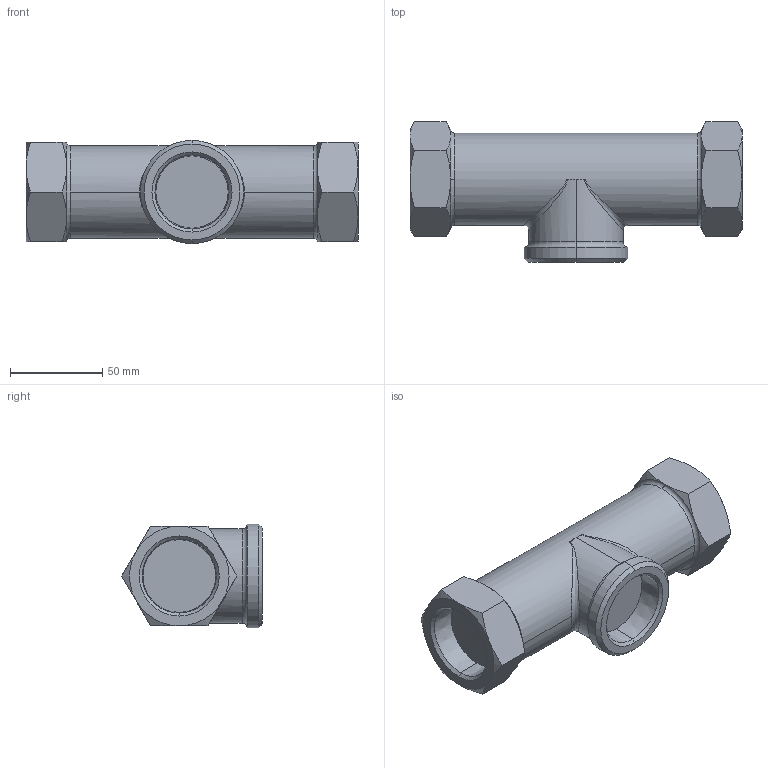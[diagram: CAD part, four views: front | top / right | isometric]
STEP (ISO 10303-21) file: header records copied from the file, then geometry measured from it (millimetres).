
FILE_DESCRIPTION (( 'STEP AP203' ), '1' );
FILE_NAME ('MS-1 32A.STEP', '2026-01-23T01:28:16', ( '' ), ( '' ), 'SwSTEP 2.0', 'SolidWorks 2024', '' );
FILE_SCHEMA (( 'CONFIG_CONTROL_DESIGN' ));
Length unit declared in the file: millimetre
Products named in the file (1): MS-1 32A
Bounding box: 180 x 76.18 x 56 mm (x, y, z)
Volume: 377262 mm3; surface area: 44452.3 mm2
Topology: 1 solids, 1 shells, 72 faces, 161 edges, 94 vertices
Faces by surface type: cone 38, plane 20, torus 6, cylinder 6, bspline 2
Entity records: 3034 total; most frequent: CARTESIAN_POINT 1424, ORIENTED_EDGE 322, DIRECTION 321, EDGE_CURVE 161, AXIS2_PLACEMENT_3D 143, VERTEX_POINT 94, EDGE_LOOP 75, FACE_OUTER_BOUND 72
